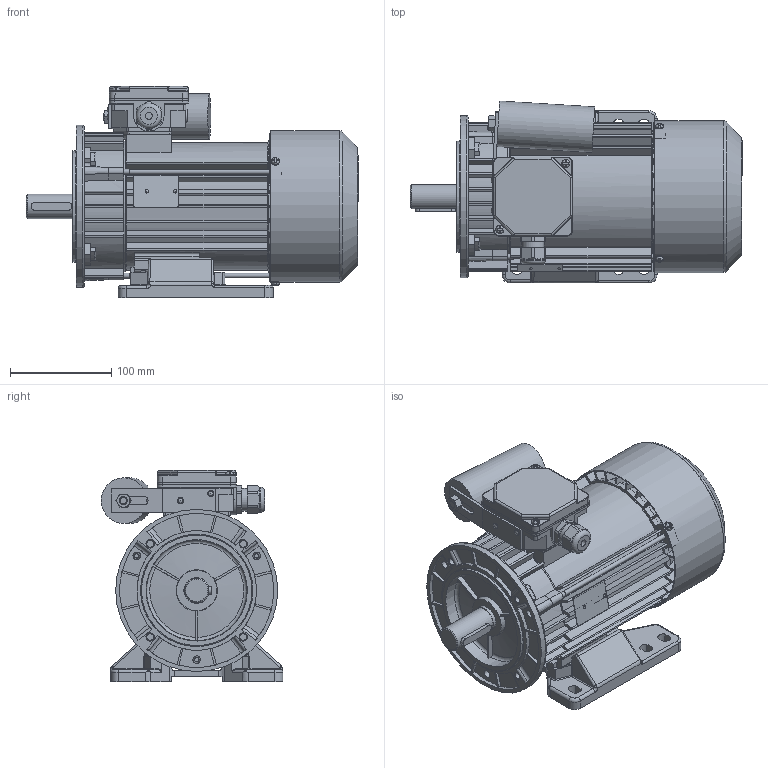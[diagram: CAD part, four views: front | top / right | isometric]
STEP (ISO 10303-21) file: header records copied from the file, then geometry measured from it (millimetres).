
FILE_DESCRIPTION( ( 'Unknown' ), '1' );
FILE_NAME( 'G:/Poczta Tk-1/STP/w.m.90/SEh90/SELh90-.L1.stp', 'Unknown', ( 'K. Szlosek' ), ( 'BESEL S.A.' ), 'PSStep 17.0.49', 'Unknown', ' ' );
FILE_SCHEMA( ( 'AUTOMOTIVE_DESIGN { 1 0 10303 214 1 1 1 1 }' ) );
Length unit declared in the file: millimetre
Products named in the file (38): skrznka zaciskowa jednofazowa ; K4-2820 Uszczelka nr 2 Sh71,80; K2-1131 Podstawa skrzynki zaciskowej jednofazowa; K4-2999 Uchwyt kondensatora; Nit 4x12 po skróceniu; nakrętka M8; K4-0898 Tulejka uszczelniająca; Dławnica M20x1,5; K2-0860 Pokrywka skrzynki zaciskowej; Assem1; K1-1257 Kadłub S(E,M)h80-C i D; K3-7810 wał S(E,M)h90-.L; K2-1715 Przewietrznik; Wpust A8x7x40; K3-2964 Osłona przewietrznika Sh80,90; K4-2320 Uszczelka nr 1 Sh71,80; K3-7771 Tarcza łożyskowa P S(E,M)h90-L tymczasowy; Wkręt samogwintujący M4x8; Nitokołek A 2x6; Łożysko 6205; Pierścień osadczy sprężyn. Z25; Tabliczka znamionowa 32x44; Śruba ściągająca E_M5x168; Kondensator zb 25-31,5uF Comar; Wkręt samogwintujący M4x12; K3-7774 Tarcza Kołnierzowa 90 B14_1 Sh  ; K1-1130 Łapa wymiar 90
Assembly tree (56 placements, depth 3):
  Assem1
    K1-1257 Kadłub S(E,M)h80-C i D
    K3-7810 wał S(E,M)h90-.L
    K2-1715 Przewietrznik
    Wpust A8x7x40
    K3-2964 Osłona przewietrznika Sh80,90
    K4-2320 Uszczelka nr 1 Sh71,80
    K3-7771 Tarcza łożyskowa P S(E,M)h90-L tymczasowy
    Wkręt samogwintujący M4x8  x3
    Nitokołek A 2x6  x2
    Łożysko 6205  x2
    Łożysko 6205  x2
    Łożysko 6205  x2
    Łożysko 6205  x2
    Łożysko 6205  x2
    Łożysko 6205  x2
    Łożysko 6205  x2
    Łożysko 6205  x2
    Łożysko 6205  x2
    Łożysko 6205  x2
    Łożysko 6205  x2
    Łożysko 6205  x2
    Pierścień osadczy sprężyn. Z25
    Tabliczka znamionowa 32x44
    Śruba ściągająca E_M5x168  x3
    Kondensator zb 25-31,5uF Comar
    Wkręt samogwintujący M4x12  x2
    K3-7774 Tarcza Kołnierzowa 90 B14_1 Sh  
    K1-1130 Łapa wymiar 90
    skrznka zaciskowa jednofazowa 
      K4-2820 Uszczelka nr 2 Sh71,80
      K2-1131 Podstawa skrzynki zaciskowej jednofazowa
      K4-2999 Uchwyt kondensatora
      Nit 4x12 po skróceniu  x2
      nakrętka M8
      K4-0898 Tulejka uszczelniająca
      Dławnica M20x1,5
      K2-0860 Pokrywka skrzynki zaciskowej
Bounding box: 327.8 x 179.3 x 208.5 mm (x, y, z)
Volume: 1310709.9 mm3; surface area: 739291.8 mm2
Topology: 55 solids, 75 shells, 3397 faces, 9471 edges, 6169 vertices
Faces by surface type: plane 1715, cylinder 1111, cone 203, torus 193, bspline 117, sphere 58
Full cylindrical faces by diameter (mm): 2 x4, 2.4 x2, 3 x1, 3.7 x11, 4 x8, 4.134 x3, 4.3 x2, 4.5 x3, 4.6 x3, 4.8 x4, 5 x7, 5.5 x3, 6 x2, 6.5 x5, 6.647 x5, 7 x1, 8 x10, 10 x2, 18.376 x1, 18.38 x1, 19.3 x1, 19.5 x1, 19.9 x1, 20 x1, 22.3 x1, 23.9 x1, 24 x1, 25 x6, 25.4 x2, 25.8 x1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
Entity records: 157656 total; most frequent: CARTESIAN_POINT 54852, ORIENTED_EDGE 17340, DIRECTION 16959, EDGE_CURVE 8670, AXIS2_PLACEMENT_3D 6139, VERTEX_POINT 5811, LINE 4681, VECTOR 4681
